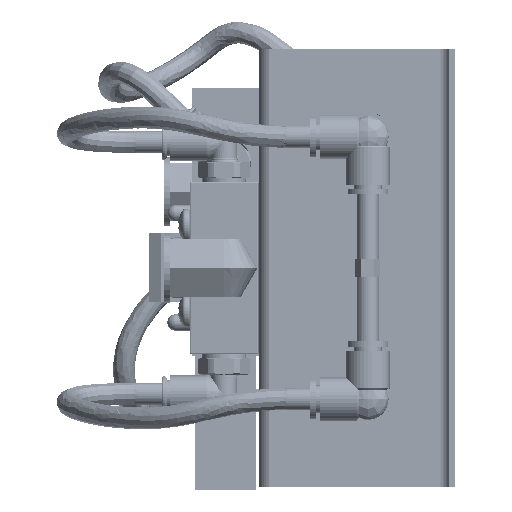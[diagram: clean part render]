
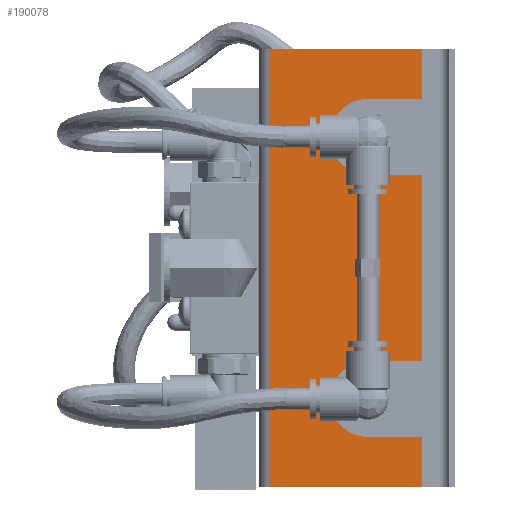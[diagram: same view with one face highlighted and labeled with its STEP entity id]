
A CAD part, left-side view. The second image highlights one B-rep face of the part: STEP entity #190078.
In plain terms, the highlighted planar face has unit normal (-1, 0, 0).
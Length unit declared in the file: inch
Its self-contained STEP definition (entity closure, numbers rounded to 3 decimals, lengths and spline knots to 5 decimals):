
#616 = VECTOR ( 'NONE', #126419, 39.37008 ) ;
#902 = VECTOR ( 'NONE', #52591, 39.37008 ) ;
#1931 = EDGE_CURVE ( 'NONE', #41374, #41942, #135713, .T. ) ;
#2900 = AXIS2_PLACEMENT_3D ( 'NONE', #99707, #228697, #120264 ) ;
#3529 = ORIENTED_EDGE ( 'NONE', *, *, #137342, .T. ) ;
#3861 = DIRECTION ( 'NONE',  ( 0., 0., -1. ) ) ;
#6284 = VECTOR ( 'NONE', #186754, 39.37008 ) ;
#7223 = ORIENTED_EDGE ( 'NONE', *, *, #162268, .T. ) ;
#7904 = EDGE_CURVE ( 'NONE', #77828, #63446, #147575, .T. ) ;
#11219 = EDGE_LOOP ( 'NONE', ( #82539, #201529, #153718, #183378, #25095, #7223, #59252, #105086, #108343, #201186, #218122, #233297 ) ) ;
#13254 = PLANE ( 'NONE',  #158617 ) ;
#14202 = CARTESIAN_POINT ( 'NONE',  ( -3.6041, 1., -0.09375 ) ) ;
#20544 = CARTESIAN_POINT ( 'NONE',  ( -3.6041, 1., 0.09375 ) ) ;
#25095 = ORIENTED_EDGE ( 'NONE', *, *, #222037, .F. ) ;
#25396 = VERTEX_POINT ( 'NONE', #20544 ) ;
#31043 = DIRECTION ( 'NONE',  ( 0., 1., 0. ) ) ;
#35579 = VERTEX_POINT ( 'NONE', #122155 ) ;
#36434 = VERTEX_POINT ( 'NONE', #191383 ) ;
#37790 = VECTOR ( 'NONE', #198155, 39.37008 ) ;
#38813 = CARTESIAN_POINT ( 'NONE',  ( -3.6041, 1., 0. ) ) ;
#41374 = VERTEX_POINT ( 'NONE', #109038 ) ;
#41469 = LINE ( 'NONE', #147769, #151756 ) ;
#41942 = VERTEX_POINT ( 'NONE', #43582 ) ;
#43582 = CARTESIAN_POINT ( 'NONE',  ( -3.6041, 1., -1.933 ) ) ;
#44164 = EDGE_CURVE ( 'NONE', #41374, #35579, #41469, .T. ) ;
#48667 = LINE ( 'NONE', #130183, #167303 ) ;
#52320 = DIRECTION ( 'NONE',  ( 0., 0., -1. ) ) ;
#52591 = DIRECTION ( 'NONE',  ( 0., -1., 0. ) ) ;
#58630 = CARTESIAN_POINT ( 'NONE',  ( -3.6041, 2.125, 2.5 ) ) ;
#59252 = ORIENTED_EDGE ( 'NONE', *, *, #7904, .T. ) ;
#61726 = DIRECTION ( 'NONE',  ( 0., -1., 0. ) ) ;
#63195 = LINE ( 'NONE', #171141, #133979 ) ;
#63446 = VERTEX_POINT ( 'NONE', #108635 ) ;
#65080 = EDGE_CURVE ( 'NONE', #219491, #87380, #99971, .T. ) ;
#65715 = LINE ( 'NONE', #170816, #139175 ) ;
#73764 = CARTESIAN_POINT ( 'NONE',  ( -3.6041, 1., 1.067 ) ) ;
#74561 = AXIS2_PLACEMENT_3D ( 'NONE', #160642, #124312, #52320 ) ;
#77828 = VERTEX_POINT ( 'NONE', #73764 ) ;
#82539 = ORIENTED_EDGE ( 'NONE', *, *, #44164, .F. ) ;
#83316 = CIRCLE ( 'NONE', #182566, 0.09375 ) ;
#83885 = DIRECTION ( 'NONE',  ( 1., 0., 0. ) ) ;
#85195 = CARTESIAN_POINT ( 'NONE',  ( -3.6041, 1., -1.067 ) ) ;
#87380 = VERTEX_POINT ( 'NONE', #216982 ) ;
#89247 = CARTESIAN_POINT ( 'NONE',  ( -3.6041, 2.125, 2.5 ) ) ;
#95214 = LINE ( 'NONE', #95560, #183120 ) ;
#95560 = CARTESIAN_POINT ( 'NONE',  ( -3.6041, 1., 1.067 ) ) ;
#99707 = CARTESIAN_POINT ( 'NONE',  ( -3.6041, 1., -1.5 ) ) ;
#99971 = LINE ( 'NONE', #210048, #902 ) ;
#101219 = EDGE_CURVE ( 'NONE', #25396, #189770, #141321, .T. ) ;
#105086 = ORIENTED_EDGE ( 'NONE', *, *, #209550, .T. ) ;
#108343 = ORIENTED_EDGE ( 'NONE', *, *, #167389, .F. ) ;
#108635 = CARTESIAN_POINT ( 'NONE',  ( -3.6041, 1., 1.933 ) ) ;
#109038 = CARTESIAN_POINT ( 'NONE',  ( -3.6041, 0.375, -1.933 ) ) ;
#114960 = DIRECTION ( 'NONE',  ( 0., 1., 0. ) ) ;
#115539 = CARTESIAN_POINT ( 'NONE',  ( -3.6041, 2.125, -2.5 ) ) ;
#120264 = DIRECTION ( 'NONE',  ( 0., 0., 1. ) ) ;
#122155 = CARTESIAN_POINT ( 'NONE',  ( -3.6041, 0.375, -2.5 ) ) ;
#123489 = EDGE_LOOP ( 'NONE', ( #3529, #230558 ) ) ;
#124312 = DIRECTION ( 'NONE',  ( 1., 0., 0. ) ) ;
#126419 = DIRECTION ( 'NONE',  ( 0., -1., 0. ) ) ;
#129663 = DIRECTION ( 'NONE',  ( 1., 0., 0. ) ) ;
#130183 = CARTESIAN_POINT ( 'NONE',  ( -3.6041, 0.375, 2.5 ) ) ;
#130950 = DIRECTION ( 'NONE',  ( 0., 0., -1. ) ) ;
#133393 = VERTEX_POINT ( 'NONE', #133626 ) ;
#133626 = CARTESIAN_POINT ( 'NONE',  ( -3.6041, 0.375, 1.933 ) ) ;
#133908 = LINE ( 'NONE', #142789, #37790 ) ;
#133979 = VECTOR ( 'NONE', #114960, 39.37008 ) ;
#135713 = LINE ( 'NONE', #209837, #141421 ) ;
#136533 = CARTESIAN_POINT ( 'NONE',  ( -3.6041, 1.25, 0. ) ) ;
#137342 = EDGE_CURVE ( 'NONE', #189770, #25396, #83316, .T. ) ;
#138058 = DIRECTION ( 'NONE',  ( 1., 0., 0. ) ) ;
#139175 = VECTOR ( 'NONE', #61726, 39.37008 ) ;
#141321 = CIRCLE ( 'NONE', #151986, 0.09375 ) ;
#141421 = VECTOR ( 'NONE', #31043, 39.37008 ) ;
#142322 = FACE_OUTER_BOUND ( 'NONE', #11219, .T. ) ;
#142789 = CARTESIAN_POINT ( 'NONE',  ( -3.6041, 0.375, 2.5 ) ) ;
#147575 = CIRCLE ( 'NONE', #74561, 0.433 ) ;
#147769 = CARTESIAN_POINT ( 'NONE',  ( -3.6041, 0.375, 2.5 ) ) ;
#151756 = VECTOR ( 'NONE', #3861, 39.37008 ) ;
#151986 = AXIS2_PLACEMENT_3D ( 'NONE', #38813, #129663, #200101 ) ;
#153718 = ORIENTED_EDGE ( 'NONE', *, *, #222657, .T. ) ;
#156216 = LINE ( 'NONE', #89247, #616 ) ;
#158160 = DIRECTION ( 'NONE',  ( 0., 0., -1. ) ) ;
#158617 = AXIS2_PLACEMENT_3D ( 'NONE', #136533, #138058, #210181 ) ;
#160642 = CARTESIAN_POINT ( 'NONE',  ( -3.6041, 1., 1.5 ) ) ;
#162268 = EDGE_CURVE ( 'NONE', #165063, #77828, #95214, .T. ) ;
#165063 = VERTEX_POINT ( 'NONE', #219419 ) ;
#167303 = VECTOR ( 'NONE', #130950, 39.37008 ) ;
#167389 = EDGE_CURVE ( 'NONE', #36434, #133393, #133908, .T. ) ;
#170816 = CARTESIAN_POINT ( 'NONE',  ( -3.6041, 1., 1.933 ) ) ;
#171141 = CARTESIAN_POINT ( 'NONE',  ( -3.6041, 2.125, -2.5 ) ) ;
#176820 = EDGE_CURVE ( 'NONE', #212977, #36434, #156216, .T. ) ;
#182566 = AXIS2_PLACEMENT_3D ( 'NONE', #227910, #83885, #158160 ) ;
#183120 = VECTOR ( 'NONE', #186577, 39.37008 ) ;
#183378 = ORIENTED_EDGE ( 'NONE', *, *, #65080, .T. ) ;
#185464 = CARTESIAN_POINT ( 'NONE',  ( -3.6041, 2.125, 2.5 ) ) ;
#186577 = DIRECTION ( 'NONE',  ( 0., 1., 0. ) ) ;
#186754 = DIRECTION ( 'NONE',  ( 0., 0., 1. ) ) ;
#189770 = VERTEX_POINT ( 'NONE', #14202 ) ;
#190078 = ADVANCED_FACE ( 'NONE', ( #196092, #142322 ), #13254, .F. ) ;
#191383 = CARTESIAN_POINT ( 'NONE',  ( -3.6041, 0.375, 2.5 ) ) ;
#196092 = FACE_BOUND ( 'NONE', #123489, .T. ) ;
#198037 = CIRCLE ( 'NONE', #2900, 0.433 ) ;
#198155 = DIRECTION ( 'NONE',  ( 0., 0., -1. ) ) ;
#198805 = EDGE_CURVE ( 'NONE', #35579, #227384, #63195, .T. ) ;
#200101 = DIRECTION ( 'NONE',  ( 0., 0., -1. ) ) ;
#201186 = ORIENTED_EDGE ( 'NONE', *, *, #176820, .F. ) ;
#201529 = ORIENTED_EDGE ( 'NONE', *, *, #1931, .T. ) ;
#204028 = EDGE_CURVE ( 'NONE', #227384, #212977, #229848, .T. ) ;
#209550 = EDGE_CURVE ( 'NONE', #63446, #133393, #65715, .T. ) ;
#209837 = CARTESIAN_POINT ( 'NONE',  ( -3.6041, 1., -1.933 ) ) ;
#210048 = CARTESIAN_POINT ( 'NONE',  ( -3.6041, 1., -1.067 ) ) ;
#210181 = DIRECTION ( 'NONE',  ( 0., 0., -1. ) ) ;
#212977 = VERTEX_POINT ( 'NONE', #185464 ) ;
#216982 = CARTESIAN_POINT ( 'NONE',  ( -3.6041, 0.375, -1.067 ) ) ;
#218122 = ORIENTED_EDGE ( 'NONE', *, *, #204028, .F. ) ;
#219419 = CARTESIAN_POINT ( 'NONE',  ( -3.6041, 0.375, 1.067 ) ) ;
#219491 = VERTEX_POINT ( 'NONE', #85195 ) ;
#222037 = EDGE_CURVE ( 'NONE', #165063, #87380, #48667, .T. ) ;
#222657 = EDGE_CURVE ( 'NONE', #41942, #219491, #198037, .T. ) ;
#227384 = VERTEX_POINT ( 'NONE', #115539 ) ;
#227910 = CARTESIAN_POINT ( 'NONE',  ( -3.6041, 1., 0. ) ) ;
#228697 = DIRECTION ( 'NONE',  ( 1., 0., 0. ) ) ;
#229848 = LINE ( 'NONE', #58630, #6284 ) ;
#230558 = ORIENTED_EDGE ( 'NONE', *, *, #101219, .T. ) ;
#233297 = ORIENTED_EDGE ( 'NONE', *, *, #198805, .F. ) ;
